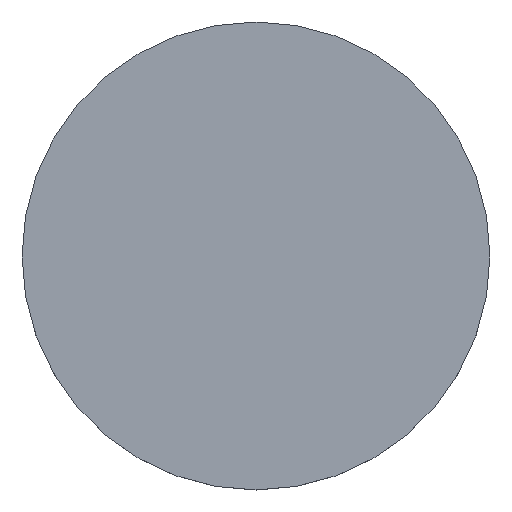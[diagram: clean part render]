
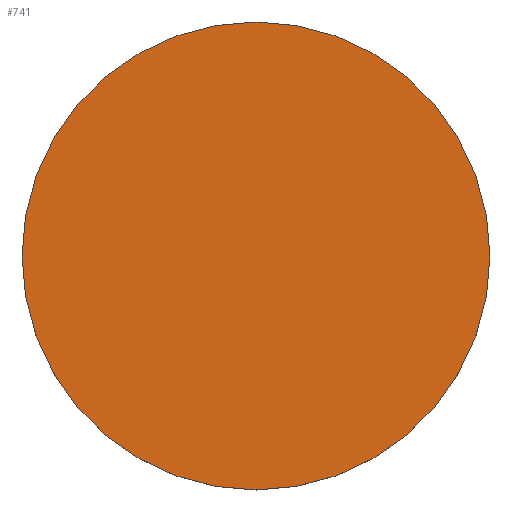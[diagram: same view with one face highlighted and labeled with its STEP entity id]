
A CAD part, top view. The second image highlights one B-rep face of the part: STEP entity #741.
In plain terms, the highlighted planar face has unit normal (0, 0, 1) as drawn and (0, 0, -1) by its records, which use the part's own axes.
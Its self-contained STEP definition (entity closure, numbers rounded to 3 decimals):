
#48 = CIRCLE ( 'NONE', #981, 210. ) ;
#105 = ORIENTED_EDGE ( 'NONE', *, *, #356, .F. ) ;
#179 = CIRCLE ( 'NONE', #959, 210. ) ;
#209 = DIRECTION ( 'NONE',  ( 0., 0., 1. ) ) ;
#248 = DIRECTION ( 'NONE',  ( 0., 0., 1. ) ) ;
#249 = AXIS2_PLACEMENT_3D ( 'NONE', #612, #364, #694 ) ;
#356 = EDGE_CURVE ( 'NONE', #974, #980, #48, .T. ) ;
#364 = DIRECTION ( 'NONE',  ( 0., 0., 1. ) ) ;
#422 = EDGE_CURVE ( 'NONE', #980, #974, #179, .T. ) ;
#432 = CARTESIAN_POINT ( 'NONE',  ( 210., 0., 0. ) ) ;
#485 = EDGE_LOOP ( 'NONE', ( #105, #739 ) ) ;
#512 = CARTESIAN_POINT ( 'NONE',  ( -210., 0., 0. ) ) ;
#612 = CARTESIAN_POINT ( 'NONE',  ( 0., 0., 0. ) ) ;
#636 = DIRECTION ( 'NONE',  ( 1., 0., 0. ) ) ;
#694 = DIRECTION ( 'NONE',  ( 1., 0., 0. ) ) ;
#696 = DIRECTION ( 'NONE',  ( 1., 0., 0. ) ) ;
#739 = ORIENTED_EDGE ( 'NONE', *, *, #422, .F. ) ;
#741 = ADVANCED_FACE ( 'NONE', ( #753 ), #852, .F. ) ;
#753 = FACE_OUTER_BOUND ( 'NONE', #485, .T. ) ;
#793 = CARTESIAN_POINT ( 'NONE',  ( 0., 0., 0. ) ) ;
#852 = PLANE ( 'NONE',  #249 ) ;
#959 = AXIS2_PLACEMENT_3D ( 'NONE', #793, #248, #636 ) ;
#974 = VERTEX_POINT ( 'NONE', #512 ) ;
#980 = VERTEX_POINT ( 'NONE', #432 ) ;
#981 = AXIS2_PLACEMENT_3D ( 'NONE', #1005, #209, #696 ) ;
#1005 = CARTESIAN_POINT ( 'NONE',  ( 0., 0., 0. ) ) ;
